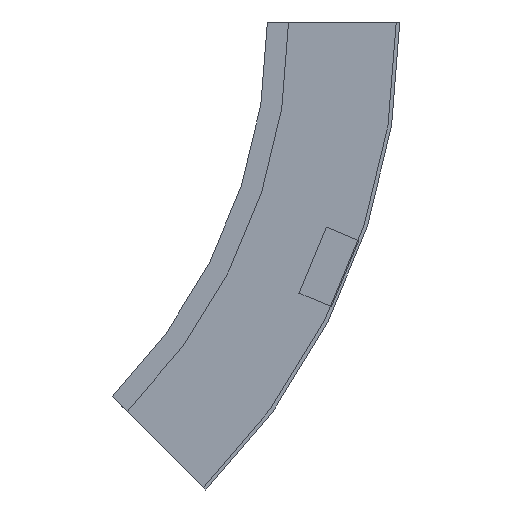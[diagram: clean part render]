
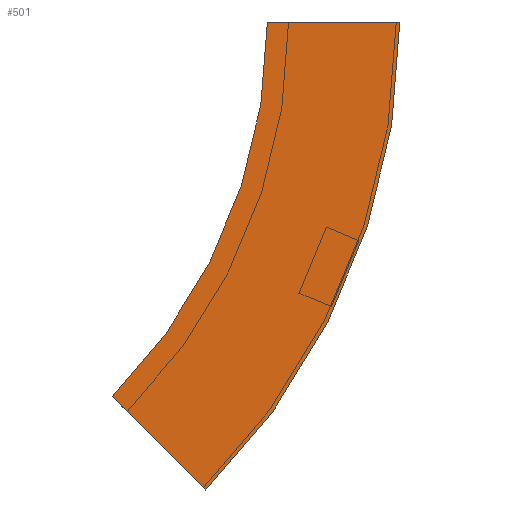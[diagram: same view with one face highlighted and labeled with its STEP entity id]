
A CAD part, left-side view. The second image highlights one B-rep face of the part: STEP entity #501.
In plain terms, the highlighted planar face has unit normal (-1, 0, 0) as drawn and (1, 0, 0) by its records, which use the part's own axes.
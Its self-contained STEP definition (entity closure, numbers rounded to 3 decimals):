
#23 = AXIS2_PLACEMENT_3D ( 'NONE', #258, #340, #163 ) ;
#26 = CARTESIAN_POINT ( 'NONE',  ( 0., -75., 0. ) ) ;
#34 = CARTESIAN_POINT ( 'NONE',  ( 0., -75., 0. ) ) ;
#45 = DIRECTION ( 'NONE',  ( 0., 1., 0. ) ) ;
#77 = FACE_OUTER_BOUND ( 'NONE', #481, .T. ) ;
#84 = ORIENTED_EDGE ( 'NONE', *, *, #474, .T. ) ;
#113 = CARTESIAN_POINT ( 'NONE',  ( 0., 0., 0. ) ) ;
#114 = DIRECTION ( 'NONE',  ( 0., -1., 0. ) ) ;
#116 = LINE ( 'NONE', #34, #301 ) ;
#121 = DIRECTION ( 'NONE',  ( -1., 0., 0. ) ) ;
#130 = VERTEX_POINT ( 'NONE', #113 ) ;
#145 = ORIENTED_EDGE ( 'NONE', *, *, #194, .F. ) ;
#156 = DIRECTION ( 'NONE',  ( 1., 0., 0. ) ) ;
#159 = DIRECTION ( 'NONE',  ( 0., 0., 1. ) ) ;
#163 = DIRECTION ( 'NONE',  ( 0., -1., 0. ) ) ;
#191 = EDGE_CURVE ( 'NONE', #364, #130, #116, .T. ) ;
#194 = EDGE_CURVE ( 'NONE', #130, #220, #397, .T. ) ;
#197 = CARTESIAN_POINT ( 'NONE',  ( 0., 300., 0. ) ) ;
#202 = PLANE ( 'NONE',  #412 ) ;
#220 = VERTEX_POINT ( 'NONE', #378 ) ;
#225 = ORIENTED_EDGE ( 'NONE', *, *, #191, .F. ) ;
#240 = AXIS2_PLACEMENT_3D ( 'NONE', #197, #156, #114 ) ;
#258 = CARTESIAN_POINT ( 'NONE',  ( 0., 300., 0. ) ) ;
#267 = CIRCLE ( 'NONE', #240, 375. ) ;
#290 = VECTOR ( 'NONE', #414, 1000. ) ;
#301 = VECTOR ( 'NONE', #45, 1000. ) ;
#303 = VERTEX_POINT ( 'NONE', #404 ) ;
#335 = CARTESIAN_POINT ( 'NONE',  ( 0., 34.835, -265.165 ) ) ;
#340 = DIRECTION ( 'NONE',  ( 1., 0., 0. ) ) ;
#364 = VERTEX_POINT ( 'NONE', #447 ) ;
#378 = CARTESIAN_POINT ( 'NONE',  ( 0., 87.868, -212.132 ) ) ;
#379 = LINE ( 'NONE', #335, #290 ) ;
#397 = CIRCLE ( 'NONE', #23, 300. ) ;
#404 = CARTESIAN_POINT ( 'NONE',  ( 0., 34.835, -265.165 ) ) ;
#412 = AXIS2_PLACEMENT_3D ( 'NONE', #26, #121, #159 ) ;
#414 = DIRECTION ( 'NONE',  ( 0., 0.707, 0.707 ) ) ;
#447 = CARTESIAN_POINT ( 'NONE',  ( 0., -75., 0. ) ) ;
#474 = EDGE_CURVE ( 'NONE', #303, #220, #379, .T. ) ;
#481 = EDGE_LOOP ( 'NONE', ( #145, #225, #511, #84 ) ) ;
#501 = ADVANCED_FACE ( 'NONE', ( #77 ), #202, .F. ) ;
#511 = ORIENTED_EDGE ( 'NONE', *, *, #523, .T. ) ;
#523 = EDGE_CURVE ( 'NONE', #364, #303, #267, .T. ) ;
